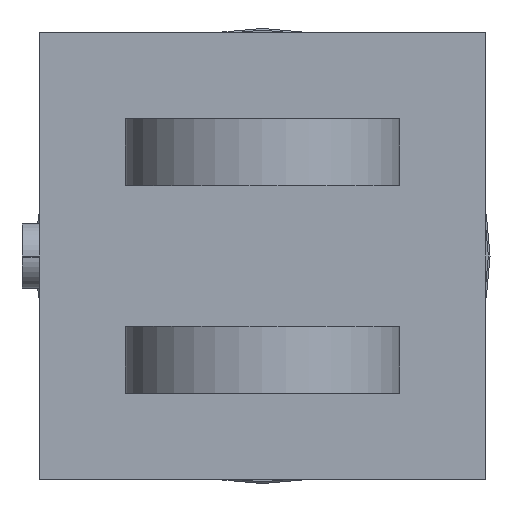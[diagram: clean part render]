
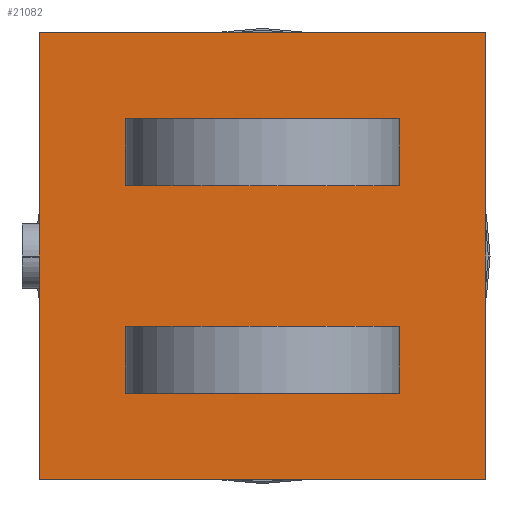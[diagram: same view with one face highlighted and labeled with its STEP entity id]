
A CAD part, left-side view. The second image highlights one B-rep face of the part: STEP entity #21082.
In plain terms, the highlighted planar face has unit normal (-1, 0, 0).
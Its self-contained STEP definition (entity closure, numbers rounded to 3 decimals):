
#455 = VECTOR ( 'NONE', #7995, 1000. ) ;
#862 = LINE ( 'NONE', #15581, #7254 ) ;
#868 = EDGE_CURVE ( 'NONE', #16409, #3357, #13474, .T. ) ;
#1067 = ORIENTED_EDGE ( 'NONE', *, *, #868, .F. ) ;
#1302 = DIRECTION ( 'NONE',  ( 0., -1., 0. ) ) ;
#1343 = VERTEX_POINT ( 'NONE', #8871 ) ;
#1400 = EDGE_CURVE ( 'NONE', #6596, #14881, #23054, .T. ) ;
#1465 = DIRECTION ( 'NONE',  ( 0., 0., -1. ) ) ;
#1474 = LINE ( 'NONE', #21790, #5833 ) ;
#1595 = LINE ( 'NONE', #17711, #20223 ) ;
#2133 = LINE ( 'NONE', #18643, #6476 ) ;
#2234 = CARTESIAN_POINT ( 'NONE',  ( -581., 130., 130. ) ) ;
#2529 = DIRECTION ( 'NONE',  ( 0., -1., 0. ) ) ;
#3215 = EDGE_CURVE ( 'NONE', #17908, #17591, #2133, .T. ) ;
#3357 = VERTEX_POINT ( 'NONE', #9193 ) ;
#3599 = ORIENTED_EDGE ( 'NONE', *, *, #13938, .F. ) ;
#3814 = DIRECTION ( 'NONE',  ( 0., 0., 1. ) ) ;
#4186 = EDGE_CURVE ( 'NONE', #3357, #12882, #6157, .T. ) ;
#4646 = EDGE_CURVE ( 'NONE', #17908, #1343, #1474, .T. ) ;
#5001 = CARTESIAN_POINT ( 'NONE',  ( -581., -80., -41. ) ) ;
#5098 = VECTOR ( 'NONE', #18426, 1000. ) ;
#5252 = CARTESIAN_POINT ( 'NONE',  ( -581., -80., -80. ) ) ;
#5833 = VECTOR ( 'NONE', #1465, 1000. ) ;
#5958 = CARTESIAN_POINT ( 'NONE',  ( -581., -130., -130. ) ) ;
#6157 = LINE ( 'NONE', #20968, #7040 ) ;
#6371 = CARTESIAN_POINT ( 'NONE',  ( -581., 80., -80. ) ) ;
#6476 = VECTOR ( 'NONE', #21001, 1000. ) ;
#6500 = FACE_OUTER_BOUND ( 'NONE', #15912, .T. ) ;
#6517 = CARTESIAN_POINT ( 'NONE',  ( -581., 80., 41. ) ) ;
#6596 = VERTEX_POINT ( 'NONE', #5001 ) ;
#7040 = VECTOR ( 'NONE', #9818, 1000. ) ;
#7254 = VECTOR ( 'NONE', #23064, 1000. ) ;
#7865 = EDGE_CURVE ( 'NONE', #18859, #6596, #20279, .T. ) ;
#7995 = DIRECTION ( 'NONE',  ( 0., 0., 1. ) ) ;
#8210 = VECTOR ( 'NONE', #20254, 1000. ) ;
#8271 = CARTESIAN_POINT ( 'NONE',  ( -581., -130., 130. ) ) ;
#8602 = CARTESIAN_POINT ( 'NONE',  ( -581., 80., 41. ) ) ;
#8815 = VECTOR ( 'NONE', #2529, 1000. ) ;
#8871 = CARTESIAN_POINT ( 'NONE',  ( -581., 130., -130. ) ) ;
#9193 = CARTESIAN_POINT ( 'NONE',  ( -581., -80., 80. ) ) ;
#9547 = ORIENTED_EDGE ( 'NONE', *, *, #3215, .F. ) ;
#9591 = ORIENTED_EDGE ( 'NONE', *, *, #15598, .F. ) ;
#9721 = FACE_BOUND ( 'NONE', #10958, .T. ) ;
#9773 = CARTESIAN_POINT ( 'NONE',  ( -581., 0., 0. ) ) ;
#9818 = DIRECTION ( 'NONE',  ( 0., 1., 0. ) ) ;
#10377 = LINE ( 'NONE', #8602, #20000 ) ;
#10466 = VERTEX_POINT ( 'NONE', #6517 ) ;
#10803 = ORIENTED_EDGE ( 'NONE', *, *, #7865, .F. ) ;
#10958 = EDGE_LOOP ( 'NONE', ( #11491, #1067, #3599, #22909 ) ) ;
#11491 = ORIENTED_EDGE ( 'NONE', *, *, #4186, .F. ) ;
#11588 = CARTESIAN_POINT ( 'NONE',  ( -581., 80., 41. ) ) ;
#11747 = CARTESIAN_POINT ( 'NONE',  ( -581., -130., -180. ) ) ;
#12001 = EDGE_CURVE ( 'NONE', #1343, #17845, #1595, .T. ) ;
#12124 = ORIENTED_EDGE ( 'NONE', *, *, #12001, .T. ) ;
#12882 = VERTEX_POINT ( 'NONE', #14792 ) ;
#13474 = LINE ( 'NONE', #23993, #21036 ) ;
#13938 = EDGE_CURVE ( 'NONE', #10466, #16409, #21581, .T. ) ;
#14660 = CARTESIAN_POINT ( 'NONE',  ( -581., -80., -80. ) ) ;
#14792 = CARTESIAN_POINT ( 'NONE',  ( -581., 80., 80. ) ) ;
#14881 = VERTEX_POINT ( 'NONE', #14928 ) ;
#14928 = CARTESIAN_POINT ( 'NONE',  ( -581., 80., -41. ) ) ;
#15575 = LINE ( 'NONE', #11747, #455 ) ;
#15581 = CARTESIAN_POINT ( 'NONE',  ( -581., 80., -80. ) ) ;
#15598 = EDGE_CURVE ( 'NONE', #14881, #22417, #862, .T. ) ;
#15912 = EDGE_LOOP ( 'NONE', ( #15961, #12124, #18964, #9547 ) ) ;
#15961 = ORIENTED_EDGE ( 'NONE', *, *, #4646, .T. ) ;
#16409 = VERTEX_POINT ( 'NONE', #18963 ) ;
#16769 = LINE ( 'NONE', #6371, #23441 ) ;
#17019 = FACE_BOUND ( 'NONE', #20363, .T. ) ;
#17275 = DIRECTION ( 'NONE',  ( -1., 0., 0. ) ) ;
#17330 = EDGE_CURVE ( 'NONE', #12882, #10466, #10377, .T. ) ;
#17335 = ORIENTED_EDGE ( 'NONE', *, *, #19857, .F. ) ;
#17591 = VERTEX_POINT ( 'NONE', #8271 ) ;
#17711 = CARTESIAN_POINT ( 'NONE',  ( -581., 0., -130. ) ) ;
#17845 = VERTEX_POINT ( 'NONE', #5958 ) ;
#17908 = VERTEX_POINT ( 'NONE', #2234 ) ;
#18308 = CARTESIAN_POINT ( 'NONE',  ( -581., 80., -41. ) ) ;
#18426 = DIRECTION ( 'NONE',  ( 0., 0., 1. ) ) ;
#18643 = CARTESIAN_POINT ( 'NONE',  ( -581., 0., 130. ) ) ;
#18859 = VERTEX_POINT ( 'NONE', #5252 ) ;
#18963 = CARTESIAN_POINT ( 'NONE',  ( -581., -80., 41. ) ) ;
#18964 = ORIENTED_EDGE ( 'NONE', *, *, #20420, .T. ) ;
#19632 = DIRECTION ( 'NONE',  ( 0., -1., 0. ) ) ;
#19857 = EDGE_CURVE ( 'NONE', #22417, #18859, #16769, .T. ) ;
#20000 = VECTOR ( 'NONE', #23605, 1000. ) ;
#20223 = VECTOR ( 'NONE', #19632, 1000. ) ;
#20254 = DIRECTION ( 'NONE',  ( 0., 1., 0. ) ) ;
#20279 = LINE ( 'NONE', #14660, #5098 ) ;
#20363 = EDGE_LOOP ( 'NONE', ( #17335, #9591, #21785, #10803 ) ) ;
#20420 = EDGE_CURVE ( 'NONE', #17845, #17591, #15575, .T. ) ;
#20968 = CARTESIAN_POINT ( 'NONE',  ( -581., 80., 80. ) ) ;
#21001 = DIRECTION ( 'NONE',  ( 0., -1., 0. ) ) ;
#21036 = VECTOR ( 'NONE', #3814, 1000. ) ;
#21082 = ADVANCED_FACE ( 'NONE', ( #6500, #17019, #9721 ), #23103, .T. ) ;
#21581 = LINE ( 'NONE', #11588, #8815 ) ;
#21785 = ORIENTED_EDGE ( 'NONE', *, *, #1400, .F. ) ;
#21790 = CARTESIAN_POINT ( 'NONE',  ( -581., 130., -180. ) ) ;
#22417 = VERTEX_POINT ( 'NONE', #24140 ) ;
#22789 = DIRECTION ( 'NONE',  ( 0., 0., 1. ) ) ;
#22909 = ORIENTED_EDGE ( 'NONE', *, *, #17330, .F. ) ;
#23054 = LINE ( 'NONE', #18308, #8210 ) ;
#23064 = DIRECTION ( 'NONE',  ( 0., 0., -1. ) ) ;
#23103 = PLANE ( 'NONE',  #23451 ) ;
#23441 = VECTOR ( 'NONE', #1302, 1000. ) ;
#23451 = AXIS2_PLACEMENT_3D ( 'NONE', #9773, #17275, #22789 ) ;
#23605 = DIRECTION ( 'NONE',  ( 0., 0., -1. ) ) ;
#23993 = CARTESIAN_POINT ( 'NONE',  ( -581., -80., 41. ) ) ;
#24140 = CARTESIAN_POINT ( 'NONE',  ( -581., 80., -80. ) ) ;
